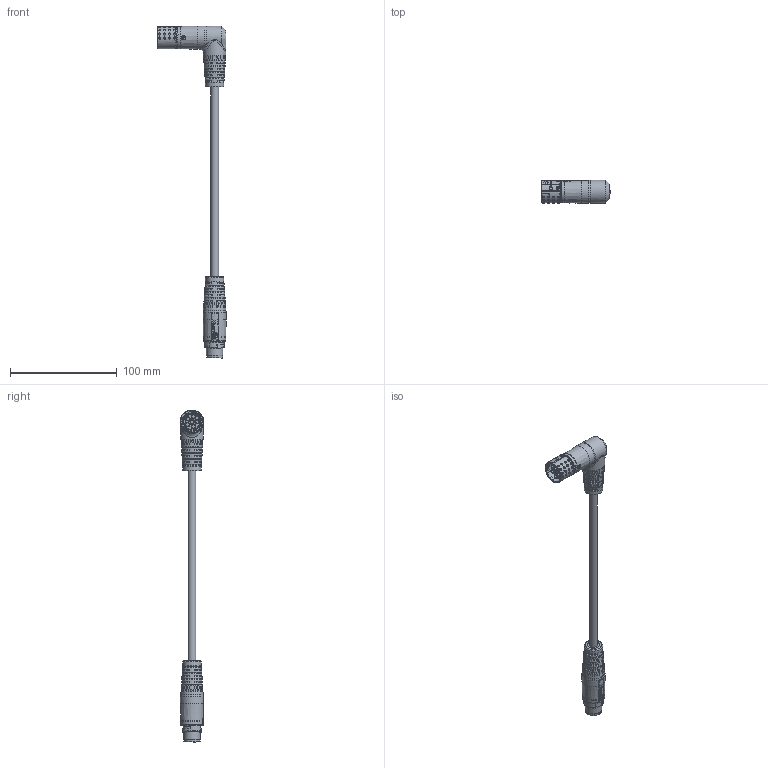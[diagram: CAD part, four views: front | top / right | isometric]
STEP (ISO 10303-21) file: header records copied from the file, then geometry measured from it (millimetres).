
FILE_DESCRIPTION (( 'STEP AP203' ), '1' );
FILE_NAME ('1138006_W-TEC_15K_STI_BU-90_L_STEP.STEP', '2023-08-31T13:37:01', ( '' ), ( '' ), 'SwSTEP 2.0', 'SolidWorks 2021', '' );
FILE_SCHEMA (( 'CONFIG_CONTROL_DESIGN' ));
Length unit declared in the file: millimetre
Products named in the file (1): 1138006_W-TEC_15K_STI_BU-90_L_STEP
Bounding box: 64.14 x 21.95 x 311.34 mm (x, y, z)
Surface area: 22471.5 mm2 (no closed solid volume)
Topology: 0 solids, 29 shells, 898 faces, 3531 edges, 2461 vertices
Faces by surface type: bspline 392, plane 222, cylinder 215, cone 51, torus 18
Full cylindrical faces by diameter (mm): 1.6 x3, 3.3 x6, 4 x2, 4.2 x3, 4.4 x3, 7.4 x1, 11.1 x4, 15.2 x1, 15.4 x1, 17.384 x1, 17.397 x1, 21.038 x1, 21.24 x1, 21.72 x2
Entity records: 60305 total; most frequent: CARTESIAN_POINT 37110, ORIENTED_EDGE 5176, EDGE_CURVE 3360, DIRECTION 3265, VERTEX_POINT 2410, B_SPLINE_CURVE_WITH_KNOTS 1645, AXIS2_PLACEMENT_3D 1191, EDGE_LOOP 1075
